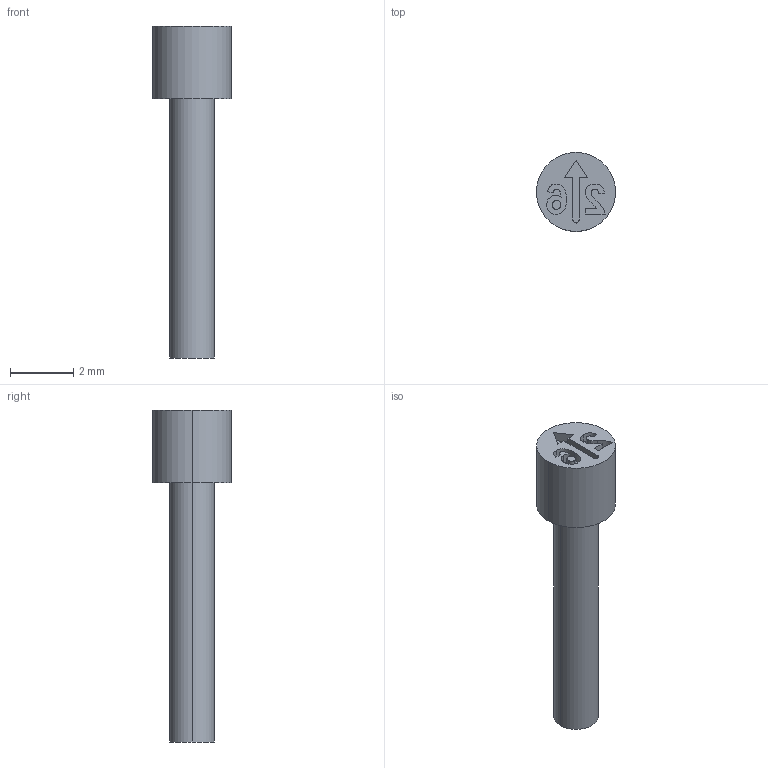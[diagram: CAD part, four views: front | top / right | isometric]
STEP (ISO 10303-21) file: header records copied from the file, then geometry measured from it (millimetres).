
FILE_DESCRIPTION (( 'STEP AP203' ), '1' );
FILE_NAME ('DNP04-26.step', '2025-04-11T22:27:02', ( '' ), ( '' ), 'SwSTEP 2.0', 'SolidWorks 2023', '' );
FILE_SCHEMA (( 'CONFIG_CONTROL_DESIGN' ));
Length unit declared in the file: millimetre
Products named in the file (1): DNP04-26
Bounding box: 2.5 x 2.5 x 10.5 mm (x, y, z)
Volume: 23.6 mm3; surface area: 68 mm2
Topology: 1 solids, 1 shells, 44 faces, 111 edges, 74 vertices
Faces by surface type: bspline 21, plane 18, cylinder 5
Entity records: 2472 total; most frequent: CARTESIAN_POINT 1467, ORIENTED_EDGE 222, DIRECTION 127, EDGE_CURVE 111, VERTEX_POINT 74, LINE 59, VECTOR 59, EDGE_LOOP 49
